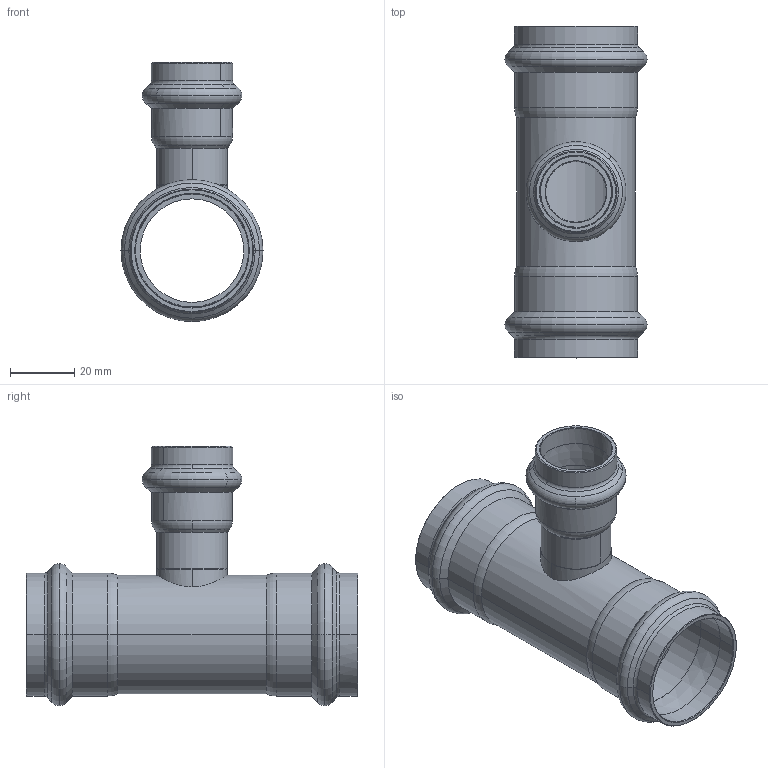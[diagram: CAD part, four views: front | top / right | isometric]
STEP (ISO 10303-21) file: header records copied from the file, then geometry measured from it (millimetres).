
FILE_DESCRIPTION(('CoCreate Modeling STEP Export'),'2;1');
FILE_NAME('8130RVW352235.stp','2013-01-31T14:41:49',(''),(''),'CoCreate Modeling STEP processor for AP214 (Solid Model)','CoCreate Modeling 17.00A 17-Jun-2010 (C) Parametric Technology GmbH','');
FILE_SCHEMA(('AUTOMOTIVE_DESIGN { 1 0 10303 214 1 1 1 1 }'));
Length unit declared in the file: millimetre
Products named in the file (2): 8130RVW352235
Assembly tree (1 placements, depth 2):
  8130RVW352235
    8130RVW352235
Bounding box: 44.3 x 103.51 x 80.89 mm (x, y, z)
Volume: 27283.6 mm3; surface area: 31233.2 mm2
Topology: 1 solids, 1 shells, 134 faces, 318 edges, 194 vertices
Faces by surface type: cylinder 42, torus 42, cone 38, plane 10, bspline 2
Entity records: 5430 total; most frequent: CARTESIAN_POINT 2839, ORIENTED_EDGE 636, DIRECTION 444, EDGE_CURVE 318, VERTEX_POINT 194, AXIS2_PLACEMENT_3D 182, EDGE_LOOP 146, FACE_OUTER_BOUND 134
